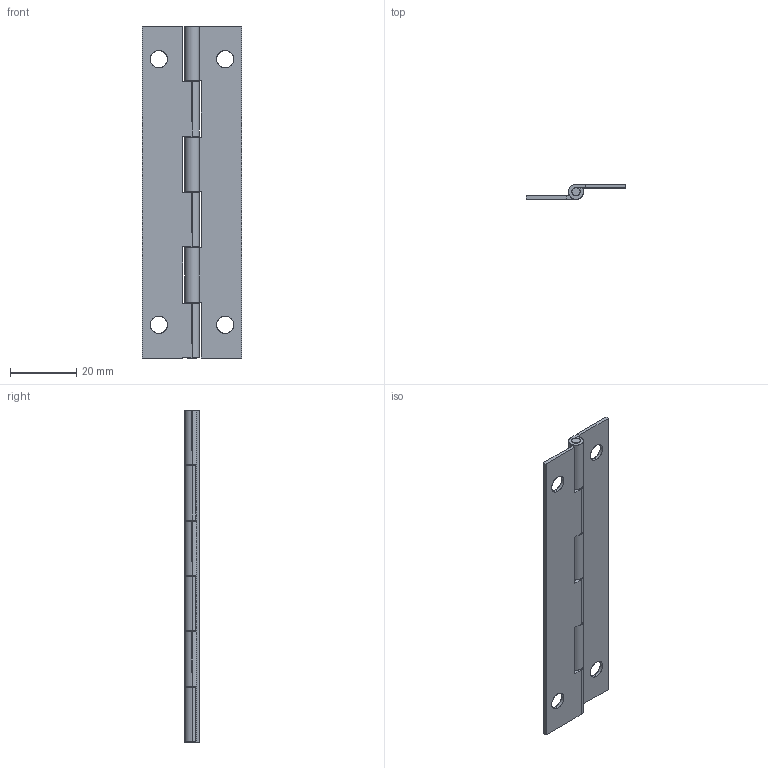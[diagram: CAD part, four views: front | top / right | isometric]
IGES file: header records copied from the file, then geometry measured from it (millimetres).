
Start section: SolidWorks IGES file using analytic representation for surfaces
Global section: file name: C:\Users\cbrechard\Desktop\CL 441.IGS; native system: SolidWorks 2017; preprocessor: SolidWorks 2017; author: cbrechard; date: 191015.091833; units: millimetre
Bounding box: 30 x 4.5 x 100 mm (x, y, z)
Surface area: 8521.8 mm2 (no closed solid volume)
Topology: 0 solids, 0 shells, 84 faces, 1320 edges, 1320 vertices
Faces by surface type: revolution 46, bspline 38
